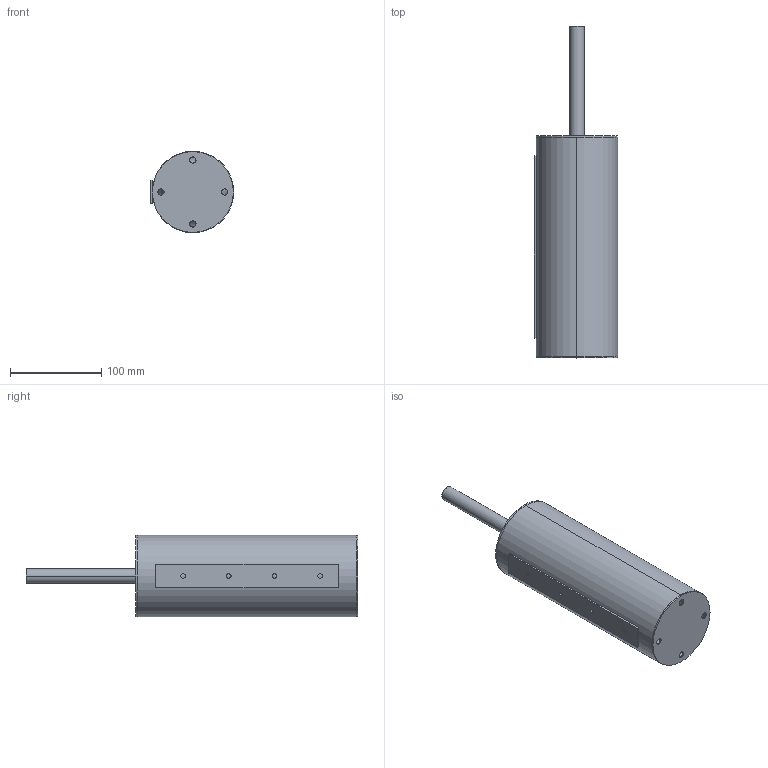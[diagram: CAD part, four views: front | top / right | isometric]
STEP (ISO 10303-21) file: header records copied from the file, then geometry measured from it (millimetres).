
FILE_DESCRIPTION (( 'STEP AP214' ), '1' );
FILE_NAME ('Szczotka do WC EQULA wisz¹ca.STEP', '2025-06-20T09:58:57', ( '' ), ( '' ), 'SwSTEP 2.0', 'SolidWorks 2021', '' );
FILE_SCHEMA (( 'AUTOMOTIVE_DESIGN' ));
Length unit declared in the file: millimetre
Products named in the file (10): 04-007-0363-S-01-02; 04-001-0362-S-00-03; Szczotka do WC EQULA wisz¹ca; 04-007-0363-W-01-00; szczotka gwint m6; 04-007-0363-S-01-01; 04-007-0363-S-02-01; 04-007-0363-W-01-03; 04-007-0363-S-02-00; 04-007-0363-S-02-02
Assembly tree (9 placements, depth 3):
  Szczotka do WC EQULA wisz¹ca
    04-007-0363-S-02-00
      04-007-0363-S-02-01
      04-007-0363-S-02-02
    04-001-0362-S-00-03
    szczotka gwint m6
    04-007-0363-W-01-00
      04-007-0363-S-01-01
      04-007-0363-S-01-02
      04-007-0363-W-01-03
Bounding box: 91 x 363.5 x 89 mm (x, y, z)
Volume: 485284.3 mm3; surface area: 208335.2 mm2
Topology: 7 solids, 7 shells, 118 faces, 296 edges, 191 vertices
Faces by surface type: cylinder 84, plane 21, cone 8, bspline 3, torus 2
Entity records: 6904 total; most frequent: CARTESIAN_POINT 3827, ORIENTED_EDGE 584, DIRECTION 563, EDGE_CURVE 292, AXIS2_PLACEMENT_3D 225, VERTEX_POINT 191, EDGE_LOOP 143, FACE_OUTER_BOUND 118
